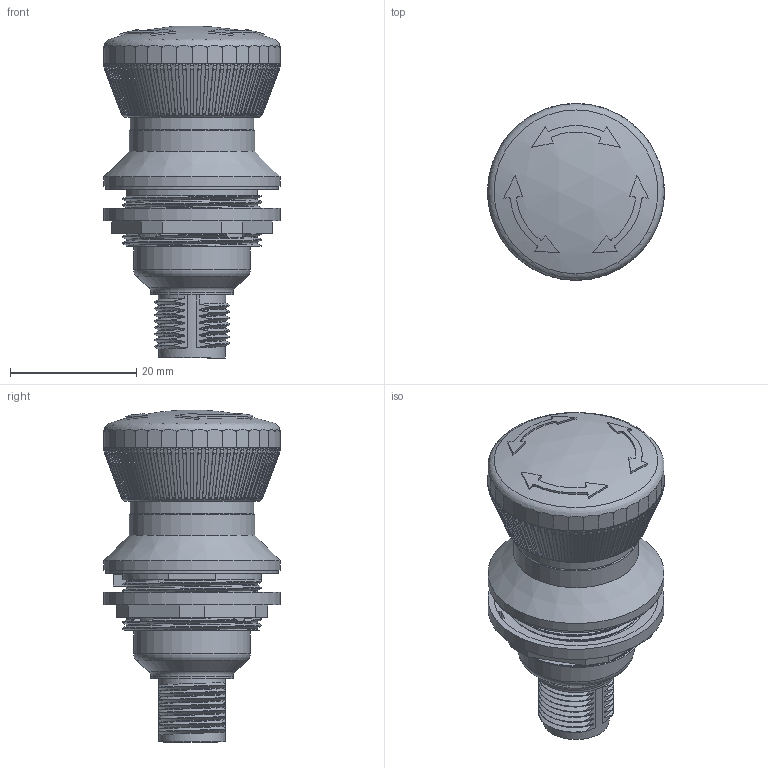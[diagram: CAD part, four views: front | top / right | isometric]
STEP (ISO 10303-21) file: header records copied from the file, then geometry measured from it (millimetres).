
FILE_DESCRIPTION(/* description */ (''),/* implementation_level */ '2;1');
FILE_NAME(/* name */ 'FRVKOO_C001_vereinfacht.stp',/* time_stamp */ '2025-07-21T14:41:22+02:00',/* author */ ('lroessler'),/* organization */ (''),/* preprocessor_version */ 'ST-DEVELOPER v19.2',/* originating_system */ 'Autodesk Inventor 2023',/* authorisation */ '');
FILE_SCHEMA (('AUTOMOTIVE_DESIGN { 1 0 10303 214 3 1 1 }'));
Length unit declared in the file: millimetre
Products named in the file (8): FRVKOO_C001_vereinfacht; Pilzknopf M36.240.2EA; 233210 Dichtung M15.010.4A; Bef.-Mutter M15.277.4BA; Gehäuse M36.607.2D; Umspritzung 4-polig mit 1 Membrane M36.802.4; Führungshülse M36.238.2IA mit geschnittenem Ge
winde; 41588512120401 M12-Stecker 4-polig neu Gewindedarstellung Multibody
Assembly tree (7 placements, depth 2):
  FRVKOO_C001_vereinfacht
    Pilzknopf M36.240.2EA
    233210 Dichtung M15.010.4A
    Bef.-Mutter M15.277.4BA
    Gehäuse M36.607.2D
    Umspritzung 4-polig mit 1 Membrane M36.802.4
    Führungshülse M36.238.2IA mit geschnittenem Ge
winde
    41588512120401 M12-Stecker 4-polig neu Gewindedarstellung Multibody
Bounding box: 28 x 28 x 52.63 mm (x, y, z)
Volume: 17840.5 mm3; surface area: 10272.4 mm2
Topology: 11 solids, 11 shells, 1065 faces, 2862 edges, 1823 vertices
Faces by surface type: plane 453, torus 229, cylinder 224, cone 93, bspline 58, sphere 8
Full cylindrical faces by diameter (mm): 1 x4, 8.3 x1, 10.5 x1, 13 x1, 18.1 x1, 18.5 x2, 18.8 x1, 19.65 x1, 19.85 x1, 20.5 x2, 22 x2, 26 x1, 27.4 x1, 28 x2
Entity records: 53631 total; most frequent: CARTESIAN_POINT 28243, ORIENTED_EDGE 5716, DIRECTION 4715, EDGE_CURVE 2858, AXIS2_PLACEMENT_3D 1926, VERTEX_POINT 1823, EDGE_LOOP 1091, FACE_OUTER_BOUND 1065
